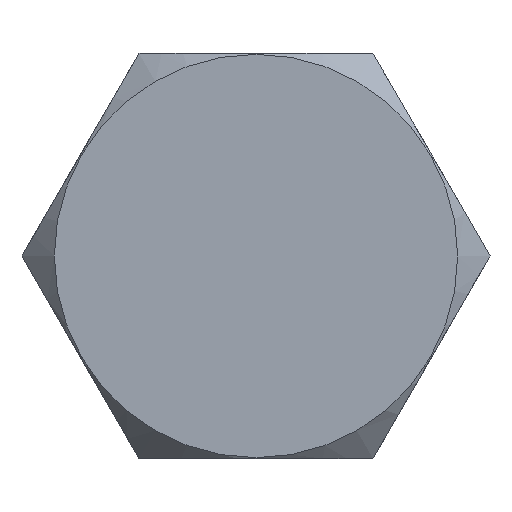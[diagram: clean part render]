
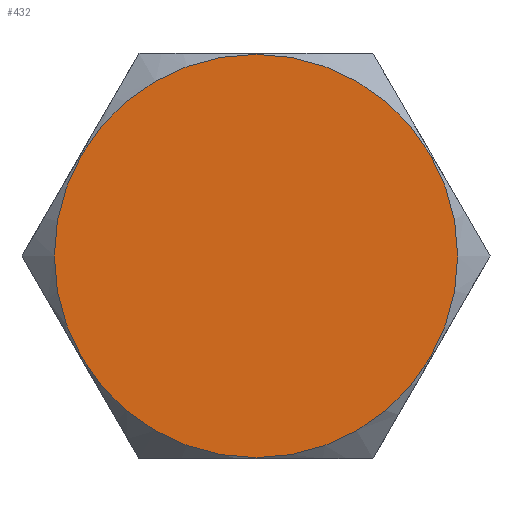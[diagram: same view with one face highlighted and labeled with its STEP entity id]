
A CAD part, front view. The second image highlights one B-rep face of the part: STEP entity #432.
In plain terms, the highlighted planar face has unit normal (0, -1, 0).
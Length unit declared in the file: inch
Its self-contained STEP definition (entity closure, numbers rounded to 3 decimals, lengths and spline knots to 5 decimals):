
#46=PLANE('',#495);
#116=FACE_OUTER_BOUND('',#145,.T.);
#145=EDGE_LOOP('',(#398));
#166=CIRCLE('',#494,0.4975);
#212=VERTEX_POINT('',#821);
#273=EDGE_CURVE('',#212,#212,#166,.T.);
#398=ORIENTED_EDGE('',*,*,#273,.F.);
#432=ADVANCED_FACE('',(#116),#46,.T.);
#494=AXIS2_PLACEMENT_3D('',#822,#611,#612);
#495=AXIS2_PLACEMENT_3D('',#824,#614,#615);
#611=DIRECTION('center_axis',(0.,1.,0.));
#612=DIRECTION('ref_axis',(0.,0.,1.));
#614=DIRECTION('center_axis',(0.,-1.,0.));
#615=DIRECTION('ref_axis',(0.,0.,-1.));
#821=CARTESIAN_POINT('',(0.,0.,-0.4975));
#822=CARTESIAN_POINT('Origin',(0.,0.,0.));
#824=CARTESIAN_POINT('Origin',(0.,0.,0.));
